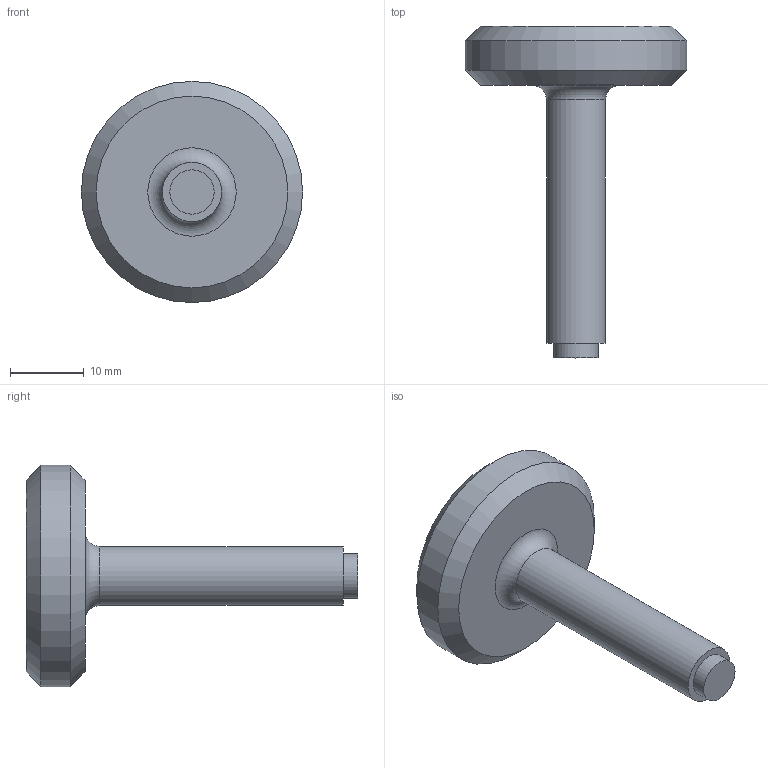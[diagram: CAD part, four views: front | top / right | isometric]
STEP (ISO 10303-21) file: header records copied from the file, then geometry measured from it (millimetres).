
FILE_DESCRIPTION(/* description */ ('PRESSURE SCREW'),/* implementation_level */ '2;1');
FILE_NAME(/* name */ 'C:\Users\Apardo\Documents\Proyectos\Dietrich\Proyecto 1\PLATE ROLLING MACHINE\STEP\1.8 pressure screw.stp',/* time_stamp */ '2020-11-03T20:36:32-04:00',/* author */ ('Apardo'),/* organization */ ('12'),/* preprocessor_version */ 'ST-DEVELOPER v18',/* originating_system */ 'Autodesk Inventor 2020',/* authorisation */ '');
FILE_SCHEMA (('AUTOMOTIVE_DESIGN { 1 0 10303 214 3 1 1 }'));
Length unit declared in the file: millimetre
Products named in the file (1): pressure screw
Bounding box: 30 x 45 x 30 mm (x, y, z)
Volume: 7134.5 mm3; surface area: 2834 mm2
Topology: 1 solids, 1 shells, 10 faces, 23 edges, 17 vertices
Faces by surface type: plane 4, cylinder 3, cone 2, torus 1
Full cylindrical faces by diameter (mm): 6 x1, 8 x1, 30 x1
Entity records: 346 total; most frequent: DIRECTION 63, CARTESIAN_POINT 51, ORIENTED_EDGE 46, AXIS2_PLACEMENT_3D 29, EDGE_CURVE 23, CIRCLE 18, VERTEX_POINT 17, EDGE_LOOP 12
